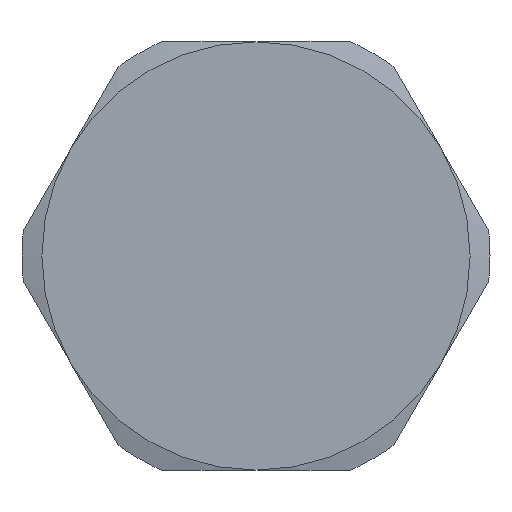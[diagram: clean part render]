
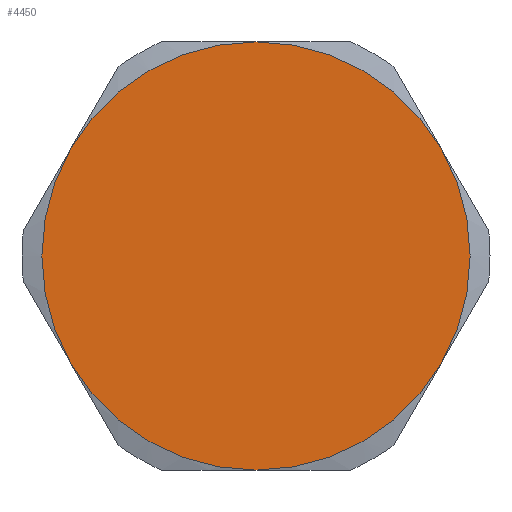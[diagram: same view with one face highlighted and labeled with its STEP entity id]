
A CAD part, left-side view. The second image highlights one B-rep face of the part: STEP entity #4450.
In plain terms, the highlighted planar face has unit normal (-1, 0, 0).
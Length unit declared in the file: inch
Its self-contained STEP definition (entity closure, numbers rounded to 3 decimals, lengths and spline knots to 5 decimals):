
#3938=CARTESIAN_POINT('',(-0.219,-0.43301,0.25));
#3939=VERTEX_POINT('',#3938);
#3963=CARTESIAN_POINT('',(-0.219,0.,0.5));
#3964=VERTEX_POINT('',#3963);
#3978=CARTESIAN_POINT('',(-0.219,0.,0.));
#3979=DIRECTION('',(-1.0,0.0,0.0));
#3980=DIRECTION('',(0.0,0.0,1.0));
#3981=AXIS2_PLACEMENT_3D('',#3978,#3979,#3980);
#3982=CIRCLE('',#3981,0.5);
#3983=EDGE_CURVE('',#3939,#3964,#3982,.T.);
#3993=CARTESIAN_POINT('',(-0.219,-0.43301,-0.25));
#3994=VERTEX_POINT('',#3993);
#4031=CARTESIAN_POINT('',(-0.219,0.,0.));
#4032=DIRECTION('',(-1.0,0.0,0.0));
#4033=DIRECTION('',(0.0,0.0,1.0));
#4034=AXIS2_PLACEMENT_3D('',#4031,#4032,#4033);
#4035=CIRCLE('',#4034,0.5);
#4036=EDGE_CURVE('',#3994,#3939,#4035,.T.);
#4046=CARTESIAN_POINT('',(-0.219,0.,-0.5));
#4047=VERTEX_POINT('',#4046);
#4084=CARTESIAN_POINT('',(-0.219,0.,0.));
#4085=DIRECTION('',(-1.0,0.0,0.0));
#4086=DIRECTION('',(0.0,0.0,1.0));
#4087=AXIS2_PLACEMENT_3D('',#4084,#4085,#4086);
#4088=CIRCLE('',#4087,0.5);
#4089=EDGE_CURVE('',#4047,#3994,#4088,.T.);
#4114=CARTESIAN_POINT('',(-0.219,0.43301,-0.25));
#4115=VERTEX_POINT('',#4114);
#4116=CARTESIAN_POINT('',(-0.219,0.,0.));
#4117=DIRECTION('',(-1.0,0.0,0.0));
#4118=DIRECTION('',(0.0,0.0,1.0));
#4119=AXIS2_PLACEMENT_3D('',#4116,#4117,#4118);
#4120=CIRCLE('',#4119,0.5);
#4121=EDGE_CURVE('',#4115,#4047,#4120,.T.);
#4167=CARTESIAN_POINT('',(-0.219,0.43301,0.25));
#4168=VERTEX_POINT('',#4167);
#4169=CARTESIAN_POINT('',(-0.219,0.,0.));
#4170=DIRECTION('',(-1.0,0.0,0.0));
#4171=DIRECTION('',(0.0,0.0,1.0));
#4172=AXIS2_PLACEMENT_3D('',#4169,#4170,#4171);
#4173=CIRCLE('',#4172,0.5);
#4174=EDGE_CURVE('',#4168,#4115,#4173,.T.);
#4220=CARTESIAN_POINT('',(-0.219,0.,0.));
#4221=DIRECTION('',(-1.0,0.0,0.0));
#4222=DIRECTION('',(0.0,0.0,1.0));
#4223=AXIS2_PLACEMENT_3D('',#4220,#4221,#4222);
#4224=CIRCLE('',#4223,0.5);
#4225=EDGE_CURVE('',#3964,#4168,#4224,.T.);
#4437=CARTESIAN_POINT('',(-0.219,0.,0.0));
#4438=DIRECTION('',(-1.0,0.0,0.0));
#4439=DIRECTION('',(0.0,0.0,1.0));
#4440=AXIS2_PLACEMENT_3D('',#4437,#4438,#4439);
#4441=PLANE('',#4440);
#4442=ORIENTED_EDGE('',*,*,#4225,.T.);
#4443=ORIENTED_EDGE('',*,*,#4174,.T.);
#4444=ORIENTED_EDGE('',*,*,#4121,.T.);
#4445=ORIENTED_EDGE('',*,*,#4089,.T.);
#4446=ORIENTED_EDGE('',*,*,#4036,.T.);
#4447=ORIENTED_EDGE('',*,*,#3983,.T.);
#4448=EDGE_LOOP('',(#4442,#4443,#4444,#4445,#4446,#4447));
#4449=FACE_OUTER_BOUND('',#4448,.T.);
#4450=ADVANCED_FACE('',(#4449),#4441,.T.);
